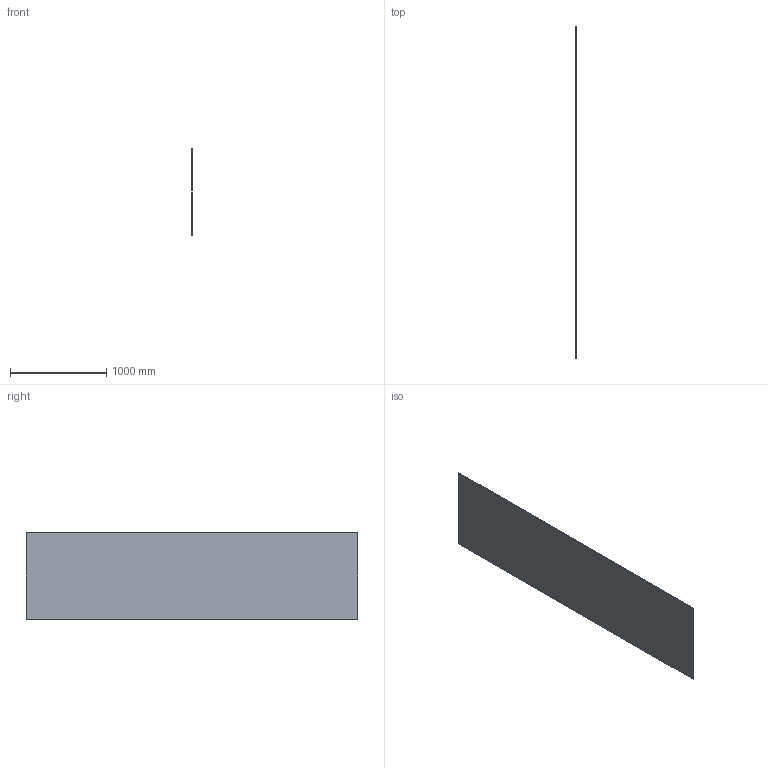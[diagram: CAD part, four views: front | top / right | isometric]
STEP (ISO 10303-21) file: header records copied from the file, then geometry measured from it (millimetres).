
FILE_DESCRIPTION(('Open CASCADE Model'),'2;1');
FILE_NAME('Open CASCADE Shape Model','2026-09-19T12:55:11',('Author'),( 'Open CASCADE'),'Open CASCADE STEP processor 7.9','Open CASCADE 7.9' ,'Unknown');
FILE_SCHEMA(('AUTOMOTIVE_DESIGN { 1 0 10303 214 1 1 1 1 }'));
Length unit declared in the file: millimetre
Products named in the file (1): Open CASCADE STEP translator 7.9 25
Bounding box: 8 x 3450 x 900 mm (x, y, z)
Volume: 24840000 mm3; surface area: 6279600 mm2
Topology: 1 solids, 1 shells, 6 faces, 12 edges, 8 vertices
Faces by surface type: plane 6
Entity records: 322 total; most frequent: CARTESIAN_POINT 51, DIRECTION 50, LINE 36, VECTOR 36, ORIENTED_EDGE 24, PCURVE 24, DEFINITIONAL_REPRESENTATION 24, EDGE_CURVE 12
